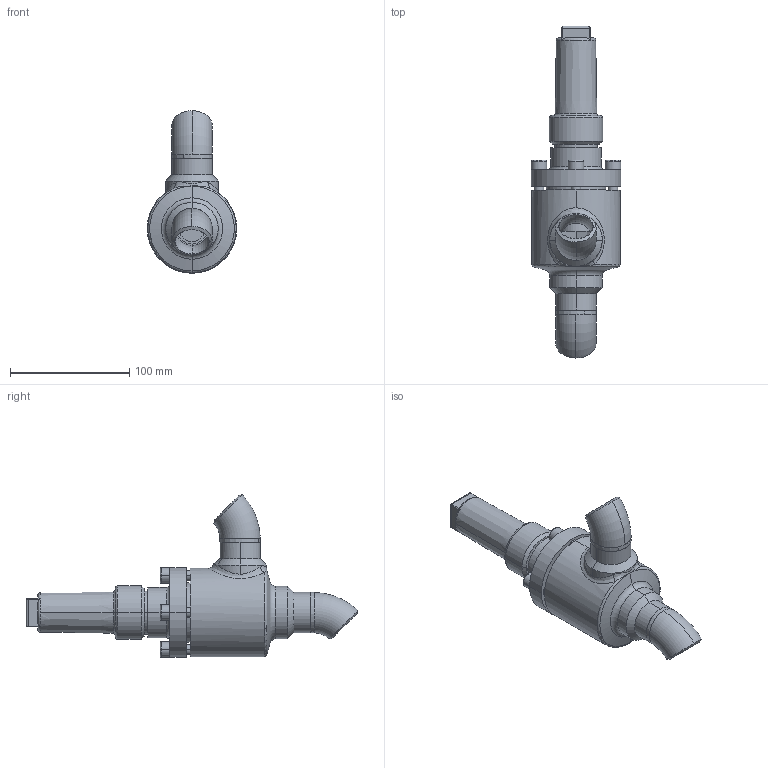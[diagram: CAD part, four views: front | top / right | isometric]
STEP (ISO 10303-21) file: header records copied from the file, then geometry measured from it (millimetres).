
FILE_DESCRIPTION (( 'STEP AP214' ), '1' );
FILE_NAME ('HRAR22300D12-DN025_R1_PS40.STEP', '2006-04-27T12:31:34', ( 'Herr Grams' ), ( 'AWP GmbH' ), 'SwSTEP 2.0', 'SolidWorks 2002296', '' );
FILE_SCHEMA (( 'AUTOMOTIVE_DESIGN' ));
Length unit declared in the file: millimetre
Products named in the file (10): HRAR22300D12-DN025_R1_PS40; Kappe16402_DN010-32_Standard; AVR26300E13_Deck+Schr-DN25-32_Standard; Deckel26300E13-DN25-32_Standard; Zylinderschraube-DIN912_M 8x 25; Gehäuse-kpl16300-DN025_R1_Standard; Gehäuse16400-DN025_Standard; bead16300-Geh-025-1_Standard; bead16300-Geh-025-2_Standard; Rohrbogen 45°_R1-Fase_Rohrbogen-DN025-45°
Assembly tree (13 placements, depth 3):
  HRAR22300D12-DN025_R1_PS40
    Gehäuse-kpl16300-DN025_R1_Standard
      Rohrbogen 45°_R1-Fase_Rohrbogen-DN025-45°  x2
      bead16300-Geh-025-1_Standard
      bead16300-Geh-025-2_Standard
      Gehäuse16400-DN025_Standard
    AVR26300E13_Deck+Schr-DN25-32_Standard
      Zylinderschraube-DIN912_M 8x 25  x4
      Deckel26300E13-DN25-32_Standard
    Kappe16402_DN010-32_Standard
Bounding box: 75 x 278.28 x 136.28 mm (x, y, z)
Volume: 392725.6 mm3; surface area: 106107.3 mm2
Topology: 11 solids, 11 shells, 248 faces, 557 edges, 350 vertices
Faces by surface type: cylinder 83, plane 76, cone 47, torus 31, bspline 11
Entity records: 31112 total; most frequent: CARTESIAN_POINT 26218, DIRECTION 905, ORIENTED_EDGE 842, EDGE_CURVE 421, AXIS2_PLACEMENT_3D 384, VERTEX_POINT 264, EDGE_LOOP 215, CIRCLE 193
